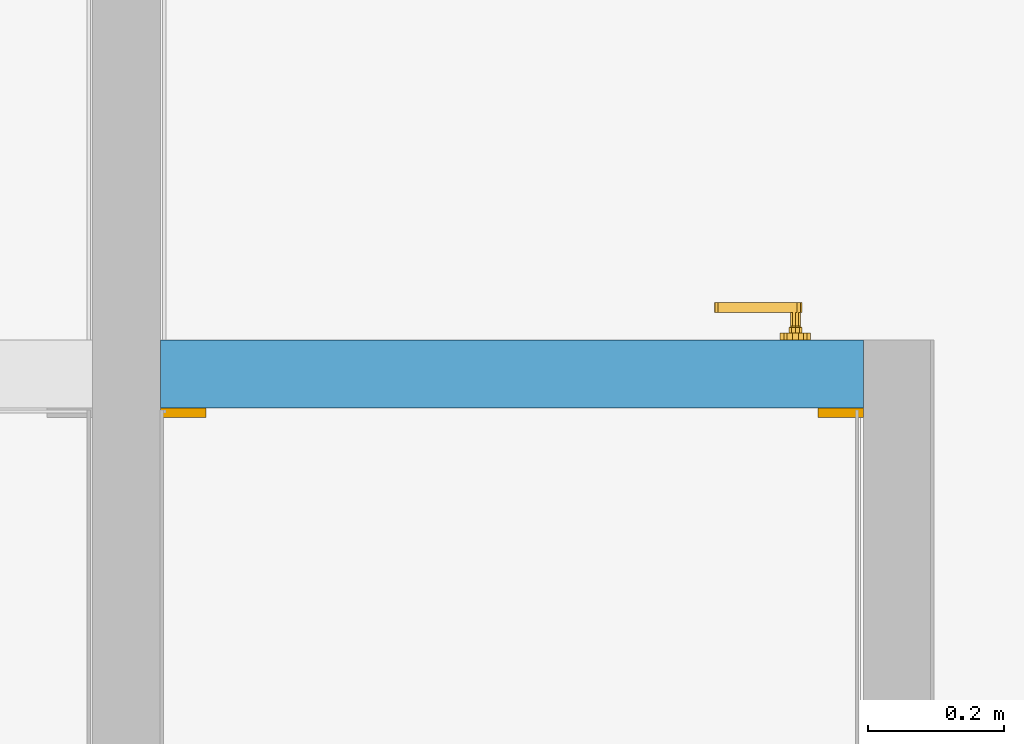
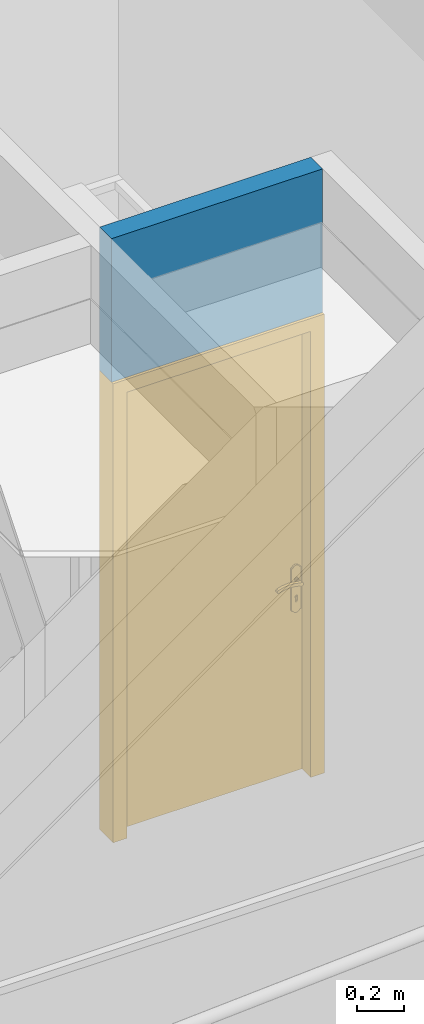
# One storey, part 7 of 788: 1 door, 1 wall, 1 opening.
"""IFC2X3 building model written with IfcOpenShell, lengths in millimetres."""

from ifc_helpers import new_model, entity, si_unit, converted_unit, derived_unit, money_unit, direction, frame, origin_with_axes, place, context, subcontext, project, spatial, faceted_brep, source, transform, mapped, material, type_object, type_shapes, element, fill, save


model = new_model("IFC2X3")

# Units and contexts
model_context = context("Model", 3, precision=0.01, world=origin_with_axes(), true_north=direction((0.0, 1.0)))
plan_context = context("Plan", 3, precision=0.01, world=origin_with_axes(), true_north=direction((0.0, 1.0)))
body_context = subcontext(model_context, "Body", "Model", "MODEL_VIEW")
ifc_project = project(units=[si_unit("LENGTHUNIT", "METRE", prefix="MILLI"), si_unit("AREAUNIT", "SQUARE_METRE"), si_unit("VOLUMEUNIT", "CUBIC_METRE"), converted_unit("PLANEANGLEUNIT", "DEGREE", entity("IfcPlaneAngleMeasure", 0.0174532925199), si_unit("PLANEANGLEUNIT", "RADIAN"), dimensions=[0, 0, 0, 0, 0, 0, 0]), money_unit("EUR"), converted_unit("TIMEUNIT", "Year", entity("IfcTimeMeasure", 31556926.0), si_unit("TIMEUNIT", "SECOND"), dimensions=[0, 0, 1, 0, 0, 0, 0]), si_unit("MASSUNIT", "GRAM", prefix="KILO"), si_unit("THERMODYNAMICTEMPERATUREUNIT", "DEGREE_CELSIUS"), si_unit("LUMINOUSINTENSITYUNIT", "LUMEN"), si_unit("ENERGYUNIT", "JOULE", prefix="MEGA"), derived_unit("THERMALCONDUCTANCEUNIT", [(si_unit("POWERUNIT", "WATT"), 1), (si_unit("LENGTHUNIT", "METRE"), -1), (si_unit("THERMODYNAMICTEMPERATUREUNIT", "KELVIN"), -1)]), derived_unit("SPECIFICHEATCAPACITYUNIT", [(si_unit("ENERGYUNIT", "JOULE"), 1), (si_unit("MASSUNIT", "GRAM", prefix="KILO"), -1), (si_unit("THERMODYNAMICTEMPERATUREUNIT", "KELVIN"), -1)]), derived_unit("MASSDENSITYUNIT", [(si_unit("MASSUNIT", "GRAM", prefix="KILO"), 1), (si_unit("VOLUMEUNIT", "CUBIC_METRE"), -1)])], contexts=[model_context, plan_context])

# Site, building, storey
site_placement = place(None, origin_with_axes())
site = spatial("IfcSite", under=ifc_project, at=site_placement, Name="Site", CompositionType="ELEMENT")
building_placement = place(site_placement, origin_with_axes())
building = spatial("IfcBuilding", under=site, at=building_placement, Name="Naam gebouw", CompositionType="ELEMENT")
storey_placement = place(building_placement, origin_with_axes())
storey = spatial("IfcBuildingStorey", under=building, at=storey_placement, Name="Begane grond", CompositionType="ELEMENT", Elevation=0.0)

# Wall, opening, door
ifc_material = material(Name="Steen - Betonblok C")
wall_type = type_object("IfcWallType", Name="22 Binnenwand NC_betonblok 100mm 100", PredefinedType="ELEMENTEDWALL")
wall_placement = place(storey_placement, frame((71976.0508186, -56503.9858655, 830.0), z_axis=(0.0, 0.0, 1.0), x_axis=(1.0, 0.0, 0.0)))
wall = element("IfcWall", 1, at=wall_placement, inside=storey, type_object=wall_type, material=ifc_material, Name="Binnenwand", context=body_context, shape_type="Brep", body=[
    faceted_brep([(1034.0, -50.0, 2447.0), (1034.0, 50.0, 2447.0), (1034.00282185, 50.0, 3190.0), (1034.00282185, -50.0, 3190.0), (0.0, 50.0, 2447.0), (0.0, -50.0, 2447.0), (0.0, 50.0, 3190.0), (0.0, -50.0, 3190.0)], [[[0, 1, 2, 3]], [[4, 1, 0, 5]], [[1, 4, 6, 2]], [[3, 2, 6, 7]], [[5, 0, 3, 7]], [[4, 5, 7, 6]]]),
])
opening_placement = place(wall_placement, frame((517.0, 0.0, 70.0), z_axis=(0.0, 0.0, 1.0), x_axis=(1.0, 0.0, 0.0)))
opening = element("IfcOpeningElement", 2, at=opening_placement, cuts=wall, Name="b1.13-sp", context=body_context, shape_type="Brep", body=[
    faceted_brep([(-517.0, 200.0, 2377.0), (-517.0, 200.0, 0.0), (-517.0, -100.0, 0.0), (-517.0, -100.0, 2377.0), (517.0, 200.0, 2377.0), (517.0, 200.0, 0.0), (517.0, -100.0, 0.0), (517.0, -100.0, 2377.0)], [[[0, 1, 2, 3]], [[0, 4, 5, 1]], [[1, 5, 6, 2]], [[3, 2, 6, 7]], [[4, 0, 3, 7]], [[5, 4, 7, 6]]]),
])
door_style = type_object("IfcDoorStyle", Name="D1 25", ConstructionType="NOTDEFINED", OperationType="SINGLE_SWING_LEFT", ParameterTakesPrecedence=False, Sizeable=False)
shared_shape = source(origin_with_axes(), body_context, "Body", "Brep", [
    faceted_brep([(450.0, -40.0, 0.0), (450.0, -114.0, 0.0), (450.0, -114.0, 2310.0), (450.0, -40.0, 2310.0), (467.0, -40.0, 0.0), (467.0, 0.0, 0.0), (517.0, 0.0, 0.0), (517.0, -114.0, 0.0), (517.0, -114.0, 2310.0), (467.0, -40.0, 2310.0), (517.0, 0.0, 2310.0), (467.0, 0.0, 2310.0)], [[[0, 1, 2, 3]], [[4, 5, 6, 7, 1, 0]], [[1, 7, 8, 2]], [[9, 3, 2, 8, 10, 11]], [[9, 4, 0, 3]], [[11, 5, 4, 9]], [[11, 10, 6, 5]], [[6, 10, 8, 7]]]),
    faceted_brep([(-467.0, -40.0, 2310.0), (-467.0, 0.0, 2310.0), (-517.0, 0.0, 2310.0), (-517.0, -114.0, 2310.0), (-450.0, -114.0, 2310.0), (-450.0, -40.0, 2310.0), (-467.0, -40.0, 0.0), (-467.0, 0.0, 0.0), (-517.0, 0.0, 0.0), (-517.0, -114.0, 0.0), (-450.0, -114.0, 0.0), (-450.0, -40.0, 0.0)], [[[0, 1, 2, 3, 4, 5]], [[0, 6, 7, 1]], [[7, 8, 2, 1]], [[2, 8, 9, 3]], [[3, 9, 10, 4]], [[5, 4, 10, 11]], [[5, 11, 6, 0]], [[6, 11, 10, 9, 8, 7]]]),
    faceted_brep([(467.0, 0.0, 2327.0), (-467.0, 0.0, 2327.0), (-467.0, 0.0, 2310.0), (-517.0, 0.0, 2310.0), (-517.0, 0.0, 2377.0), (517.0, 0.0, 2377.0), (517.0, 0.0, 2310.0), (467.0, 0.0, 2310.0), (467.0, -40.0, 2327.0), (-467.0, -40.0, 2327.0), (-467.0, -40.0, 2310.0), (-450.0, -40.0, 2310.0), (-450.0, -114.0, 2310.0), (-517.0, -114.0, 2310.0), (-517.0, -114.0, 2377.0), (517.0, -114.0, 2377.0), (517.0, -114.0, 2310.0), (467.0, -40.0, 2310.0), (450.0, -114.0, 2310.0), (450.0, -40.0, 2310.0)], [[[0, 1, 2, 3, 4, 5, 6, 7]], [[0, 8, 9, 1]], [[1, 9, 10, 2]], [[10, 11, 12, 13, 3, 2]], [[4, 3, 13, 14]], [[5, 4, 14, 15]], [[6, 5, 15, 16]], [[17, 7, 6, 16, 18, 19]], [[7, 17, 8, 0]], [[10, 9, 8, 17, 19, 11]], [[19, 18, 12, 11]], [[12, 18, 16, 15, 14, 13]]]),
    faceted_brep([(421.702282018, -80.0, 1006.47213595), (421.702282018, -60.0, 1006.47213595), (417.0, -60.0, 1008.0), (417.0, -80.0, 1008.0), (424.60845213, -80.0, 1002.47213595), (424.60845213, -60.0, 1002.47213595), (422.877852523, -58.0, 1008.09016994), (417.0, -58.0, 1010.0), (412.297717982, -60.0, 1006.47213595), (412.297717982, -80.0, 1006.47213595), (409.39154787, -80.0, 1002.47213595), (409.39154787, -80.0, 997.527864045), (412.297717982, -80.0, 993.527864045), (417.0, -80.0, 992.0), (421.702282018, -80.0, 993.527864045), (424.60845213, -80.0, 997.527864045), (424.60845213, -60.0, 997.527864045), (426.510565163, -58.0, 1003.09016994), (422.877852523, -50.0, 1008.09016994), (417.0, -50.0, 1010.0), (411.122147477, -58.0, 1008.09016994), (409.39154787, -60.0, 1002.47213595), (409.39154787, -60.0, 997.527864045), (412.297717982, -60.0, 993.527864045), (417.0, -60.0, 992.0), (421.702282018, -60.0, 993.527864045), (426.510565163, -58.0, 996.909830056), (426.510565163, -50.0, 1003.09016994), (426.510565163, -50.0, 996.909830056), (422.877852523, -50.0, 991.909830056), (417.0, -50.0, 990.0), (411.122147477, -50.0, 991.909830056), (407.489434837, -50.0, 996.909830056), (407.489434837, -50.0, 1003.09016994), (411.122147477, -50.0, 1008.09016994), (407.489434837, -58.0, 1003.09016994), (407.489434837, -58.0, 996.909830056), (411.122147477, -58.0, 991.909830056), (417.0, -58.0, 990.0), (422.877852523, -58.0, 991.909830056)], [[[0, 1, 2, 3]], [[4, 5, 1, 0]], [[1, 6, 7, 2]], [[3, 2, 8, 9]], [[3, 9, 10, 11, 12, 13, 14, 15, 4, 0]], [[15, 16, 5, 4]], [[5, 17, 6, 1]], [[6, 18, 19, 7]], [[2, 7, 20, 8]], [[9, 8, 21, 10]], [[10, 21, 22, 11]], [[11, 22, 23, 12]], [[12, 23, 24, 13]], [[13, 24, 25, 14]], [[14, 25, 16, 15]], [[16, 26, 17, 5]], [[17, 27, 18, 6]], [[19, 18, 27, 28, 29, 30, 31, 32, 33, 34]], [[7, 19, 34, 20]], [[8, 20, 35, 21]], [[21, 35, 36, 22]], [[22, 36, 37, 23]], [[23, 37, 38, 24]], [[24, 38, 39, 25]], [[25, 39, 26, 16]], [[26, 28, 27, 17]], [[39, 29, 28, 26]], [[38, 30, 29, 39]], [[37, 31, 30, 38]], [[36, 32, 31, 37]], [[35, 33, 32, 36]], [[20, 34, 33, 35]]]),
    faceted_brep([(404.811616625, -50.0, 1067.59695641), (400.2, -50.0, 1060.0), (394.5, -50.0, 1060.0), (394.5, -50.0, 840.0), (400.2, -50.0, 840.0), (404.811616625, -50.0, 832.403043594), (412.556444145, -50.0, 828.044328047), (421.443555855, -50.0, 828.044328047), (429.188383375, -50.0, 832.403043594), (433.8, -50.0, 840.0), (439.5, -50.0, 840.0), (439.5, -50.0, 1060.0), (433.8, -50.0, 1060.0), (429.188383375, -50.0, 1067.59695641), (421.443555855, -50.0, 1071.95567195), (412.556444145, -50.0, 1071.95567195), (417.0, -50.0, 917.425445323), (422.375182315, -50.0, 915.143815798), (424.467830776, -50.0, 909.692280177), (422.0, -50.0, 904.4), (422.0, -50.0, 887.5), (420.535533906, -50.0, 883.964466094), (417.0, -50.0, 882.5), (413.464466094, -50.0, 883.964466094), (412.0, -50.0, 887.5), (412.0, -50.0, 904.4), (409.532169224, -50.0, 909.692280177), (411.624817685, -50.0, 915.143815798), (404.811616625, -40.0, 1067.59695641), (400.2, -40.0, 1060.0), (394.5, -40.0, 1060.0), (394.5, -40.0, 840.0), (400.2, -40.0, 840.0), (404.811616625, -40.0, 832.403043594), (412.556444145, -40.0, 828.044328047), (421.443555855, -40.0, 828.044328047), (429.188383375, -40.0, 832.403043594), (433.8, -40.0, 840.0), (439.5, -40.0, 840.0), (439.5, -40.0, 1060.0), (433.8, -40.0, 1060.0), (429.188383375, -40.0, 1067.59695641), (421.443555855, -40.0, 1071.95567195), (412.556444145, -40.0, 1071.95567195), (417.0, -40.0, 917.425445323), (422.375182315, -40.0, 915.143815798), (424.467830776, -40.0, 909.692280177), (422.0, -40.0, 904.4), (422.0, -40.0, 887.5), (420.535533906, -40.0, 883.964466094), (417.0, -40.0, 882.5), (413.464466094, -40.0, 883.964466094), (412.0, -40.0, 887.5), (412.0, -40.0, 904.4), (409.532169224, -40.0, 909.692280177), (411.624817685, -40.0, 915.143815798)], [[[0, 1, 2, 3, 4, 5, 6, 7, 8, 9, 10, 11, 12, 13, 14, 15], [16, 17, 18, 19, 20, 21, 22, 23, 24, 25, 26, 27]], [[0, 28, 29, 1]], [[1, 29, 30, 2]], [[2, 30, 31, 3]], [[3, 31, 32, 4]], [[4, 32, 33, 5]], [[5, 33, 34, 6]], [[6, 34, 35, 7]], [[7, 35, 36, 8]], [[8, 36, 37, 9]], [[9, 37, 38, 10]], [[10, 38, 39, 11]], [[11, 39, 40, 12]], [[12, 40, 41, 13]], [[13, 41, 42, 14]], [[14, 42, 43, 15]], [[15, 43, 28, 0]], [[16, 44, 45, 17]], [[17, 45, 46, 18]], [[18, 46, 47, 19]], [[47, 48, 20, 19]], [[21, 20, 48, 49]], [[22, 21, 49, 50]], [[23, 22, 50, 51]], [[24, 23, 51, 52]], [[25, 24, 52, 53]], [[25, 53, 54, 26]], [[26, 54, 55, 27]], [[27, 55, 44, 16]], [[32, 31, 30, 29, 28, 43, 42, 41, 40, 39, 38, 37, 36, 35, 34, 33], [46, 45, 44, 55, 54, 53, 52, 51, 50, 49, 48, 47]]]),
    faceted_brep([(302.747, -80.0, 1007.158), (302.745508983, -80.0, 1007.19388416), (302.745508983, -95.0, 1007.19388416), (302.747, -95.0, 1007.158), (329.774630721, -80.0, 1014.32652034), (357.602743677, -80.0, 1017.06086405), (385.508740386, -80.0, 1015.29002982), (412.768, -80.0, 1009.06), (419.170575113, -80.0, 1009.76125134), (424.672633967, -80.0, 1006.41280843), (426.991512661, -80.0, 1000.40385485), (425.165167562, -80.0, 994.227352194), (419.951302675, -80.0, 990.445773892), (413.513017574, -80.0, 990.628000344), (408.521392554, -80.0, 994.698430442), (408.542, -80.0, 994.666), (383.253286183, -80.0, 1000.19878945), (357.410818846, -80.0, 1001.71460194), (331.648684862, -80.0, 999.176244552), (306.599, -80.0, 992.646), (301.055815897, -80.0, 993.568490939), (297.69427449, -80.0, 998.071591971), (298.385844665, -80.0, 1003.64829442), (298.385844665, -95.0, 1003.64829442), (297.69427449, -95.0, 998.071591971), (301.055815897, -95.0, 993.568490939), (306.599, -95.0, 992.646), (331.648684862, -95.0, 999.176244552), (357.410818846, -95.0, 1001.71460194), (383.253286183, -95.0, 1000.19878945), (408.542, -95.0, 994.666), (408.521392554, -95.0, 994.698430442), (413.513017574, -95.0, 990.628000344), (419.951302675, -95.0, 990.445773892), (425.165167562, -95.0, 994.227352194), (426.991512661, -95.0, 1000.40385485), (424.672633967, -95.0, 1006.41280843), (419.170575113, -95.0, 1009.76125134), (412.768, -95.0, 1009.06), (385.508740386, -95.0, 1015.29002982), (357.602743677, -95.0, 1017.06086405), (329.774630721, -95.0, 1014.32652034)], [[[0, 1, 2, 3]], [[0, 4, 5, 6, 7, 8, 9, 10, 11, 12, 13, 14, 15, 16, 17, 18, 19, 20, 21, 22, 1]], [[1, 22, 23, 2]], [[3, 2, 23, 24, 25, 26, 27, 28, 29, 30, 31, 32, 33, 34, 35, 36, 37, 38, 39, 40, 41]], [[4, 0, 3, 41]], [[5, 4, 41, 40]], [[6, 5, 40, 39]], [[7, 6, 39, 38]], [[8, 7, 38, 37]], [[9, 8, 37, 36]], [[10, 9, 36, 35]], [[11, 10, 35, 34]], [[12, 11, 34, 33]], [[13, 12, 33, 32]], [[14, 13, 32, 31]], [[15, 14, 31, 30]], [[16, 15, 30, 29]], [[17, 16, 29, 28]], [[18, 17, 28, 27]], [[19, 18, 27, 26]], [[20, 19, 26, 25]], [[21, 20, 25, 24]], [[22, 21, 24, 23]]]),
    faceted_brep([(421.702282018, 40.0, 1006.47213595), (417.0, 40.0, 1008.0), (417.0, 20.0, 1008.0), (421.702282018, 20.0, 1006.47213595), (424.60845213, 40.0, 1002.47213595), (424.60845213, 40.0, 997.527864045), (421.702282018, 40.0, 993.527864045), (417.0, 40.0, 992.0), (412.297717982, 40.0, 993.527864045), (409.39154787, 40.0, 997.527864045), (409.39154787, 40.0, 1002.47213595), (412.297717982, 40.0, 1006.47213595), (412.297717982, 20.0, 1006.47213595), (417.0, 18.0, 1010.0), (422.877852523, 18.0, 1008.09016994), (424.60845213, 20.0, 1002.47213595), (424.60845213, 20.0, 997.527864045), (421.702282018, 20.0, 993.527864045), (417.0, 20.0, 992.0), (412.297717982, 20.0, 993.527864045), (409.39154787, 20.0, 997.527864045), (409.39154787, 20.0, 1002.47213595), (411.122147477, 18.0, 1008.09016994), (417.0, 10.0, 1010.0), (422.877852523, 10.0, 1008.09016994), (426.510565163, 18.0, 1003.09016994), (426.510565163, 18.0, 996.909830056), (422.877852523, 18.0, 991.909830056), (417.0, 18.0, 990.0), (411.122147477, 18.0, 991.909830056), (407.489434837, 18.0, 996.909830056), (407.489434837, 18.0, 1003.09016994), (411.122147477, 10.0, 1008.09016994), (407.489434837, 10.0, 1003.09016994), (407.489434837, 10.0, 996.909830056), (411.122147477, 10.0, 991.909830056), (417.0, 10.0, 990.0), (422.877852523, 10.0, 991.909830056), (426.510565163, 10.0, 996.909830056), (426.510565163, 10.0, 1003.09016994)], [[[0, 1, 2, 3]], [[1, 0, 4, 5, 6, 7, 8, 9, 10, 11]], [[1, 11, 12, 2]], [[3, 2, 13, 14]], [[4, 0, 3, 15]], [[5, 4, 15, 16]], [[6, 5, 16, 17]], [[7, 6, 17, 18]], [[8, 7, 18, 19]], [[9, 8, 19, 20]], [[10, 9, 20, 21]], [[11, 10, 21, 12]], [[2, 12, 22, 13]], [[14, 13, 23, 24]], [[15, 3, 14, 25]], [[16, 15, 25, 26]], [[17, 16, 26, 27]], [[18, 17, 27, 28]], [[19, 18, 28, 29]], [[20, 19, 29, 30]], [[21, 20, 30, 31]], [[12, 21, 31, 22]], [[13, 22, 32, 23]], [[23, 32, 33, 34, 35, 36, 37, 38, 39, 24]], [[25, 14, 24, 39]], [[26, 25, 39, 38]], [[27, 26, 38, 37]], [[28, 27, 37, 36]], [[29, 28, 36, 35]], [[30, 29, 35, 34]], [[31, 30, 34, 33]], [[22, 31, 33, 32]]]),
    faceted_brep([(404.811616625, 0.0, 1067.59695641), (400.2, 0.0, 1060.0), (394.5, 0.0, 1060.0), (394.5, 0.0, 840.0), (400.2, 0.0, 840.0), (404.811616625, 0.0, 832.403043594), (412.556444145, 0.0, 828.044328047), (421.443555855, 0.0, 828.044328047), (429.188383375, 0.0, 832.403043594), (433.8, 0.0, 840.0), (439.5, 0.0, 840.0), (439.5, 0.0, 1060.0), (433.8, 0.0, 1060.0), (429.188383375, 0.0, 1067.59695641), (421.443555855, 0.0, 1071.95567195), (412.556444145, 0.0, 1071.95567195), (417.0, 0.0, 917.425445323), (422.375182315, 0.0, 915.143815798), (424.467830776, 0.0, 909.692280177), (422.0, 0.0, 904.4), (422.0, 0.0, 887.5), (420.535533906, 0.0, 883.964466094), (417.0, 0.0, 882.5), (413.464466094, 0.0, 883.964466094), (412.0, 0.0, 887.5), (412.0, 0.0, 904.4), (409.532169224, 0.0, 909.692280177), (411.624817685, 0.0, 915.143815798), (404.811616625, 10.0, 1067.59695641), (400.2, 10.0, 1060.0), (394.5, 10.0, 1060.0), (394.5, 10.0, 840.0), (400.2, 10.0, 840.0), (404.811616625, 10.0, 832.403043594), (412.556444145, 10.0, 828.044328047), (421.443555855, 10.0, 828.044328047), (429.188383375, 10.0, 832.403043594), (433.8, 10.0, 840.0), (439.5, 10.0, 840.0), (439.5, 10.0, 1060.0), (433.8, 10.0, 1060.0), (429.188383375, 10.0, 1067.59695641), (421.443555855, 10.0, 1071.95567195), (412.556444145, 10.0, 1071.95567195), (417.0, 10.0, 917.425445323), (422.375182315, 10.0, 915.143815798), (424.467830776, 10.0, 909.692280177), (422.0, 10.0, 904.4), (422.0, 10.0, 887.5), (420.535533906, 10.0, 883.964466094), (417.0, 10.0, 882.5), (413.464466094, 10.0, 883.964466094), (412.0, 10.0, 887.5), (412.0, 10.0, 904.4), (409.532169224, 10.0, 909.692280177), (411.624817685, 10.0, 915.143815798)], [[[0, 1, 2, 3, 4, 5, 6, 7, 8, 9, 10, 11, 12, 13, 14, 15], [16, 17, 18, 19, 20, 21, 22, 23, 24, 25, 26, 27]], [[28, 29, 1, 0]], [[29, 30, 2, 1]], [[30, 31, 3, 2]], [[31, 32, 4, 3]], [[32, 33, 5, 4]], [[33, 34, 6, 5]], [[34, 35, 7, 6]], [[35, 36, 8, 7]], [[36, 37, 9, 8]], [[37, 38, 10, 9]], [[38, 39, 11, 10]], [[39, 40, 12, 11]], [[40, 41, 13, 12]], [[41, 42, 14, 13]], [[42, 43, 15, 14]], [[43, 28, 0, 15]], [[16, 44, 45, 17]], [[17, 45, 46, 18]], [[18, 46, 47, 19]], [[47, 48, 20, 19]], [[21, 20, 48, 49]], [[22, 21, 49, 50]], [[23, 22, 50, 51]], [[24, 23, 51, 52]], [[25, 24, 52, 53]], [[25, 53, 54, 26]], [[26, 54, 55, 27]], [[27, 55, 44, 16]], [[32, 31, 30, 29, 28, 43, 42, 41, 40, 39, 38, 37, 36, 35, 34, 33], [46, 45, 44, 55, 54, 53, 52, 51, 50, 49, 48, 47]]]),
    faceted_brep([(302.747, 40.0, 1007.158), (302.747, 55.0, 1007.158), (302.745508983, 55.0, 1007.19388416), (302.745508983, 40.0, 1007.19388416), (329.774630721, 40.0, 1014.32652034), (329.774630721, 55.0, 1014.32652034), (357.602743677, 55.0, 1017.06086405), (385.508740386, 55.0, 1015.29002982), (412.768, 55.0, 1009.06), (419.170575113, 55.0, 1009.76125134), (424.672633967, 55.0, 1006.41280843), (426.991512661, 55.0, 1000.40385485), (425.165167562, 55.0, 994.227352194), (419.951302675, 55.0, 990.445773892), (413.513017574, 55.0, 990.628000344), (408.521392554, 55.0, 994.698430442), (408.542, 55.0, 994.666), (383.253286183, 55.0, 1000.19878945), (357.410818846, 55.0, 1001.71460194), (331.648684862, 55.0, 999.176244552), (306.599, 55.0, 992.646), (301.055815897, 55.0, 993.568490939), (297.69427449, 55.0, 998.071591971), (298.385844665, 55.0, 1003.64829442), (298.385844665, 40.0, 1003.64829442), (297.69427449, 40.0, 998.071591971), (301.055815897, 40.0, 993.568490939), (306.599, 40.0, 992.646), (331.648684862, 40.0, 999.176244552), (357.410818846, 40.0, 1001.71460194), (383.253286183, 40.0, 1000.19878945), (408.542, 40.0, 994.666), (408.521392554, 40.0, 994.698430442), (413.513017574, 40.0, 990.628000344), (419.951302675, 40.0, 990.445773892), (425.165167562, 40.0, 994.227352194), (426.991512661, 40.0, 1000.40385485), (424.672633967, 40.0, 1006.41280843), (419.170575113, 40.0, 1009.76125134), (412.768, 40.0, 1009.06), (385.508740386, 40.0, 1015.29002982), (357.602743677, 40.0, 1017.06086405)], [[[0, 1, 2, 3]], [[4, 5, 1, 0]], [[1, 5, 6, 7, 8, 9, 10, 11, 12, 13, 14, 15, 16, 17, 18, 19, 20, 21, 22, 23, 2]], [[3, 2, 23, 24]], [[0, 3, 24, 25, 26, 27, 28, 29, 30, 31, 32, 33, 34, 35, 36, 37, 38, 39, 40, 41, 4]], [[41, 6, 5, 4]], [[40, 7, 6, 41]], [[39, 8, 7, 40]], [[38, 9, 8, 39]], [[37, 10, 9, 38]], [[36, 11, 10, 37]], [[35, 12, 11, 36]], [[34, 13, 12, 35]], [[33, 14, 13, 34]], [[32, 15, 14, 33]], [[31, 16, 15, 32]], [[30, 17, 16, 31]], [[29, 18, 17, 30]], [[28, 19, 18, 29]], [[27, 20, 19, 28]], [[26, 21, 20, 27]], [[25, 22, 21, 26]], [[24, 23, 22, 25]]]),
    faceted_brep([(-467.0, 0.0, 0.0), (467.0, 0.0, 0.0), (467.0, -40.0, 0.0), (-467.0, -40.0, 0.0), (-467.0, 0.0, 2327.0), (467.0, 0.0, 2327.0), (467.0, -40.0, 2327.0), (-467.0, -40.0, 2327.0)], [[[0, 1, 2, 3]], [[0, 4, 5, 1]], [[1, 5, 6, 2]], [[3, 2, 6, 7]], [[4, 0, 3, 7]], [[5, 4, 7, 6]]]),
])
type_shapes(door_style, [shared_shape])
door_placement = place(opening_placement, frame((-517.0, 0.0, 0.0), z_axis=(0.0, 0.0, 1.0), x_axis=(1.0, 0.0, 0.0)))
door = element("IfcDoor", 3, at=door_placement, inside=storey, type_object=door_style, Name="b1.13-sp", ObjectType="DOOR", OverallHeight=2377.0, OverallWidth=1034.0, context=body_context, shape_type="MappedRepresentation", body=[
    mapped(shared_shape, transform((517.0, 50.0, 0.0))),
])
fill(opening, door)

save(model, "model.ifc")
